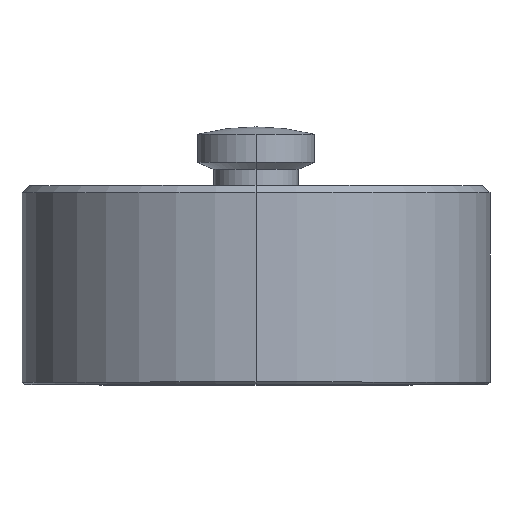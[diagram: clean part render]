
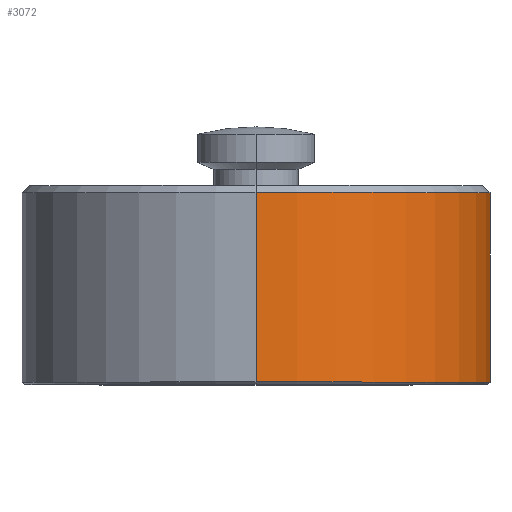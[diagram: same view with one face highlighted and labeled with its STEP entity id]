
A CAD part, top view. The second image highlights one B-rep face of the part: STEP entity #3072.
In plain terms, the highlighted cylindrical face has radius 10 mm (diameter 20 mm), a partial arc.
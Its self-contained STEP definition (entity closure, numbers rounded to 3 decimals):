
#169 = CARTESIAN_POINT ( 'NONE',  ( 1.484, -7.572, -9.889 ) ) ;
#394 = CARTESIAN_POINT ( 'NONE',  ( 1.431, -7.832, -9.897 ) ) ;
#1094 = CARTESIAN_POINT ( 'NONE',  ( 1.102, -8.452, -9.939 ) ) ;
#1312 = CARTESIAN_POINT ( 'NONE',  ( 0.218, -8.937, -10. ) ) ;
#1421 = CARTESIAN_POINT ( 'NONE',  ( 1.38, -7.996, -9.904 ) ) ;
#1616 = LINE ( 'NONE', #8391, #5991 ) ;
#1735 = CARTESIAN_POINT ( 'NONE',  ( 0., -6.063, -10. ) ) ;
#1752 = VERTEX_POINT ( 'NONE', #7923 ) ;
#1802 = DIRECTION ( 'NONE',  ( 0., -1., 0. ) ) ;
#2224 = EDGE_LOOP ( 'NONE', ( #5331, #10774, #21189, #4075, #3131, #5797, #2324 ) ) ;
#2324 = ORIENTED_EDGE ( 'NONE', *, *, #20086, .F. ) ;
#2461 = VERTEX_POINT ( 'NONE', #12542 ) ;
#3072 = ADVANCED_FACE ( 'NONE', ( #21374 ), #15948, .T. ) ;
#3131 = ORIENTED_EDGE ( 'NONE', *, *, #5343, .T. ) ;
#3136 = EDGE_CURVE ( 'NONE', #20262, #2461, #21531, .T. ) ;
#3622 = CARTESIAN_POINT ( 'NONE',  ( 1.361, -6.947, -9.907 ) ) ;
#4075 = ORIENTED_EDGE ( 'NONE', *, *, #18042, .T. ) ;
#4100 = DIRECTION ( 'NONE',  ( 0., 0., 1. ) ) ;
#4329 = CARTESIAN_POINT ( 'NONE',  ( 0., 0., 0. ) ) ;
#4531 = CARTESIAN_POINT ( 'NONE',  ( 1.365, -8.033, -9.906 ) ) ;
#4645 = CARTESIAN_POINT ( 'NONE',  ( 0.737, -8.745, -9.973 ) ) ;
#4853 = CARTESIAN_POINT ( 'NONE',  ( 0.997, -8.558, -9.95 ) ) ;
#5028 = CARTESIAN_POINT ( 'NONE',  ( 0., -2.5, 0. ) ) ;
#5204 = VERTEX_POINT ( 'NONE', #21143 ) ;
#5257 = AXIS2_PLACEMENT_3D ( 'NONE', #4329, #19500, #4100 ) ;
#5331 = ORIENTED_EDGE ( 'NONE', *, *, #3136, .T. ) ;
#5343 = EDGE_CURVE ( 'NONE', #12443, #5204, #1616, .T. ) ;
#5397 = CARTESIAN_POINT ( 'NONE',  ( 0.216, -6.063, -10. ) ) ;
#5797 = ORIENTED_EDGE ( 'NONE', *, *, #10732, .T. ) ;
#5991 = VECTOR ( 'NONE', #11809, 1000. ) ;
#6314 = CARTESIAN_POINT ( 'NONE',  ( 0.002, -8.937, -10. ) ) ;
#6425 = CARTESIAN_POINT ( 'NONE',  ( 0.812, -8.698, -9.967 ) ) ;
#6525 = CARTESIAN_POINT ( 'NONE',  ( 1.224, -8.298, -9.925 ) ) ;
#7779 = VECTOR ( 'NONE', #15618, 1000. ) ;
#7923 = CARTESIAN_POINT ( 'NONE',  ( 0., -2.5, 10. ) ) ;
#8087 = CARTESIAN_POINT ( 'NONE',  ( 0.817, -8.694, -9.967 ) ) ;
#8391 = CARTESIAN_POINT ( 'NONE',  ( 0., 0., -10. ) ) ;
#8397 = CARTESIAN_POINT ( 'NONE',  ( 0., -8.937, -10. ) ) ;
#8423 = CARTESIAN_POINT ( 'NONE',  ( 0., -8.937, -10. ) ) ;
#8473 = DIRECTION ( 'NONE',  ( 0., 0., -1. ) ) ;
#9121 = LINE ( 'NONE', #20615, #15819 ) ;
#9295 = LINE ( 'NONE', #21130, #7779 ) ;
#9424 = CARTESIAN_POINT ( 'NONE',  ( 0., -10.6, 0. ) ) ;
#9532 = CARTESIAN_POINT ( 'NONE',  ( 0.926, -8.619, -9.957 ) ) ;
#10732 = EDGE_CURVE ( 'NONE', #5204, #1752, #11986, .T. ) ;
#10774 = ORIENTED_EDGE ( 'NONE', *, *, #11865, .T. ) ;
#11402 = CARTESIAN_POINT ( 'NONE',  ( 0.795, -8.709, -9.968 ) ) ;
#11739 = CARTESIAN_POINT ( 'NONE',  ( 0.001, -8.937, -10. ) ) ;
#11809 = DIRECTION ( 'NONE',  ( 0., 1., 0. ) ) ;
#11819 = CARTESIAN_POINT ( 'NONE',  ( 1.264, -6.759, -9.92 ) ) ;
#11865 = EDGE_CURVE ( 'NONE', #2461, #17294, #9295, .T. ) ;
#11936 = VERTEX_POINT ( 'NONE', #18136 ) ;
#11986 = CIRCLE ( 'NONE', #16232, 10. ) ;
#12046 = CARTESIAN_POINT ( 'NONE',  ( 1.478, -7.355, -9.89 ) ) ;
#12443 = VERTEX_POINT ( 'NONE', #12690 ) ;
#12542 = CARTESIAN_POINT ( 'NONE',  ( 0., -10.6, -10. ) ) ;
#12690 = CARTESIAN_POINT ( 'NONE',  ( 0., -6.063, -10. ) ) ;
#12846 = DIRECTION ( 'NONE',  ( 0., 0., 1. ) ) ;
#12946 = CARTESIAN_POINT ( 'NONE',  ( 1.176, -8.362, -9.931 ) ) ;
#13056 = CARTESIAN_POINT ( 'NONE',  ( 0.435, -8.889, -9.992 ) ) ;
#13167 = CARTESIAN_POINT ( 'NONE',  ( 1.151, -8.395, -9.934 ) ) ;
#13265 = CARTESIAN_POINT ( 'NONE',  ( 1.357, -8.052, -9.907 ) ) ;
#13449 = B_SPLINE_CURVE_WITH_KNOTS ( 'NONE', 3,
 ( #6314, #1312, #13056, #19817, #4645, #11402, #6425, #8087, #14838, #17935, #9532, #4853, #21592, #1094, #13167, #12946, #6525, #19920, #16592, #19704, #18371, #15040, #13265, #4531, #1421, #14941, #394, #169, #12046, #17023, #3622, #11819, #18797, #17237, #13705, #20328, #5397, #1735 ),
 .UNSPECIFIED., .F., .F.,
 ( 4, 2, 1, 2, 2, 1, 1, 2, 2, 2, 1, 2, 2, 2, 1, 1, 2, 2, 2, 2, 2, 4 ),
 ( 0.55, 0.606, 0.62, 0.624, 0.626, 0.627, 0.634, 0.663, 0.677, 0.691, 0.719, 0.747, 0.749, 0.75, 0.754, 0.761, 0.775, 0.831, 0.859, 0.888, 0.944, 1. ),
 .UNSPECIFIED. ) ;
#13705 = CARTESIAN_POINT ( 'NONE',  ( 0.823, -6.291, -9.968 ) ) ;
#13840 = CARTESIAN_POINT ( 'NONE',  ( 0.001, -8.937, -10. ) ) ;
#14409 = DIRECTION ( 'NONE',  ( 0., 1., 0. ) ) ;
#14838 = CARTESIAN_POINT ( 'NONE',  ( 0.825, -8.689, -9.966 ) ) ;
#14941 = CARTESIAN_POINT ( 'NONE',  ( 1.411, -7.909, -9.9 ) ) ;
#15040 = CARTESIAN_POINT ( 'NONE',  ( 1.356, -8.054, -9.908 ) ) ;
#15416 = CARTESIAN_POINT ( 'NONE',  ( 0., -10.6, 10. ) ) ;
#15491 = CARTESIAN_POINT ( 'NONE',  ( 0.002, -8.937, -10. ) ) ;
#15531 = DIRECTION ( 'NONE',  ( 0., 1., 0. ) ) ;
#15618 = DIRECTION ( 'NONE',  ( 0., 1., 0. ) ) ;
#15819 = VECTOR ( 'NONE', #15531, 1000. ) ;
#15948 = CYLINDRICAL_SURFACE ( 'NONE', #5257, 10. ) ;
#16125 = B_SPLINE_CURVE_WITH_KNOTS ( 'NONE', 3,
 ( #16929, #8423, #13840, #11739, #15491 ),
 .UNSPECIFIED., .F., .F.,
 ( 4, 1, 4 ),
 ( 0.55, 0.55, 0.55 ),
 .UNSPECIFIED. ) ;
#16232 = AXIS2_PLACEMENT_3D ( 'NONE', #5028, #1802, #8473 ) ;
#16592 = CARTESIAN_POINT ( 'NONE',  ( 1.33, -8.115, -9.911 ) ) ;
#16636 = EDGE_CURVE ( 'NONE', #17294, #11936, #16125, .T. ) ;
#16929 = CARTESIAN_POINT ( 'NONE',  ( 0., -8.937, -10. ) ) ;
#17023 = CARTESIAN_POINT ( 'NONE',  ( 1.399, -7.047, -9.902 ) ) ;
#17237 = CARTESIAN_POINT ( 'NONE',  ( 0.998, -6.424, -9.951 ) ) ;
#17294 = VERTEX_POINT ( 'NONE', #8397 ) ;
#17935 = CARTESIAN_POINT ( 'NONE',  ( 0.845, -8.676, -9.964 ) ) ;
#18042 = EDGE_CURVE ( 'NONE', #11936, #12443, #13449, .T. ) ;
#18136 = CARTESIAN_POINT ( 'NONE',  ( 0.002, -8.937, -10. ) ) ;
#18371 = CARTESIAN_POINT ( 'NONE',  ( 1.354, -8.06, -9.908 ) ) ;
#18686 = AXIS2_PLACEMENT_3D ( 'NONE', #9424, #14409, #12846 ) ;
#18797 = CARTESIAN_POINT ( 'NONE',  ( 1.203, -6.668, -9.928 ) ) ;
#19500 = DIRECTION ( 'NONE',  ( 0., 1., 0. ) ) ;
#19704 = CARTESIAN_POINT ( 'NONE',  ( 1.352, -8.063, -9.908 ) ) ;
#19817 = CARTESIAN_POINT ( 'NONE',  ( 0.678, -8.776, -9.977 ) ) ;
#19920 = CARTESIAN_POINT ( 'NONE',  ( 1.282, -8.209, -9.918 ) ) ;
#20086 = EDGE_CURVE ( 'NONE', #20262, #1752, #9121, .T. ) ;
#20262 = VERTEX_POINT ( 'NONE', #15416 ) ;
#20328 = CARTESIAN_POINT ( 'NONE',  ( 0.433, -6.11, -9.993 ) ) ;
#20615 = CARTESIAN_POINT ( 'NONE',  ( 0., 0., 10. ) ) ;
#21130 = CARTESIAN_POINT ( 'NONE',  ( 0., 0., -10. ) ) ;
#21143 = CARTESIAN_POINT ( 'NONE',  ( 0., -2.5, -10. ) ) ;
#21189 = ORIENTED_EDGE ( 'NONE', *, *, #16636, .T. ) ;
#21374 = FACE_OUTER_BOUND ( 'NONE', #2224, .T. ) ;
#21531 = CIRCLE ( 'NONE', #18686, 10. ) ;
#21592 = CARTESIAN_POINT ( 'NONE',  ( 1.077, -8.479, -9.942 ) ) ;
